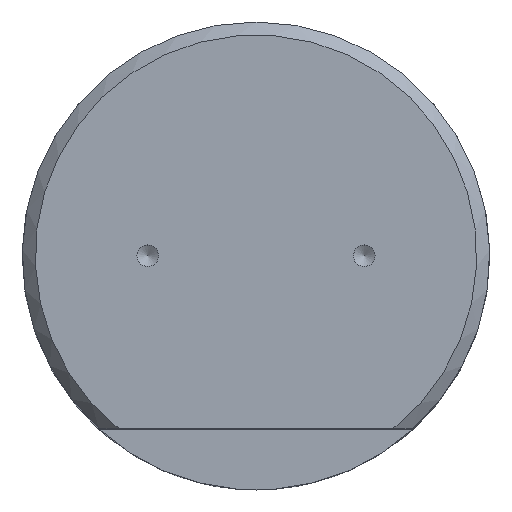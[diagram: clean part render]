
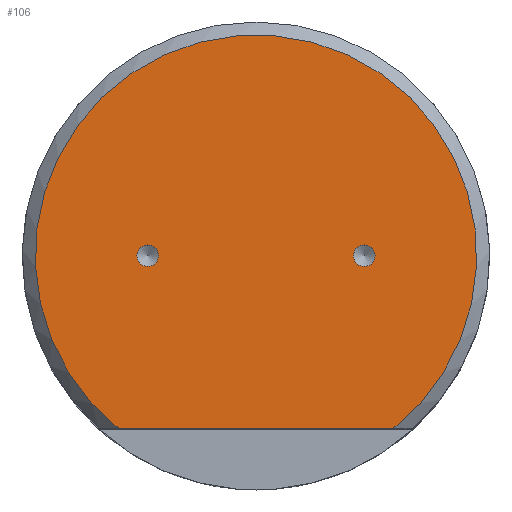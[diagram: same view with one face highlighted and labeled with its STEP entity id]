
A CAD part, top view. The second image highlights one B-rep face of the part: STEP entity #106.
In plain terms, the highlighted planar face has unit normal (0, 0, 1).
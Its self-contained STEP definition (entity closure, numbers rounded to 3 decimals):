
#90=LINE('',#847,#94);
#94=VECTOR('',#681,1.);
#106=ADVANCED_FACE('',(#166,#167,#168),#140,.T.);
#140=PLANE('',#566);
#166=FACE_BOUND('',#251,.T.);
#167=FACE_BOUND('',#252,.T.);
#168=FACE_BOUND('',#253,.T.);
#251=EDGE_LOOP('',(#335));
#252=EDGE_LOOP('',(#336));
#253=EDGE_LOOP('',(#337,#338));
#335=ORIENTED_EDGE('',*,*,#473,.T.);
#336=ORIENTED_EDGE('',*,*,#474,.T.);
#337=ORIENTED_EDGE('',*,*,#475,.F.);
#338=ORIENTED_EDGE('',*,*,#458,.T.);
#405=VERTEX_POINT('',#802);
#406=VERTEX_POINT('',#804);
#420=VERTEX_POINT('',#844);
#421=VERTEX_POINT('',#846);
#458=EDGE_CURVE('',#406,#405,#501,.T.);
#473=EDGE_CURVE('',#420,#420,#513,.T.);
#474=EDGE_CURVE('',#421,#421,#514,.T.);
#475=EDGE_CURVE('',#406,#405,#90,.T.);
#501=CIRCLE('',#542,51.);
#513=CIRCLE('',#564,2.5);
#514=CIRCLE('',#565,2.5);
#542=AXIS2_PLACEMENT_3D('',#803,#633,#634);
#564=AXIS2_PLACEMENT_3D('',#843,#677,#678);
#565=AXIS2_PLACEMENT_3D('',#845,#679,#680);
#566=AXIS2_PLACEMENT_3D('',#848,#682,#683);
#633=DIRECTION('',(0.,0.,1.));
#634=DIRECTION('',(0.,-1.,0.));
#677=DIRECTION('',(0.,0.,-1.));
#678=DIRECTION('',(0.,1.,0.));
#679=DIRECTION('',(0.,0.,-1.));
#680=DIRECTION('',(0.,1.,0.));
#681=DIRECTION('',(-1.,0.,0.));
#682=DIRECTION('',(0.,0.,1.));
#683=DIRECTION('',(0.,-1.,0.));
#802=CARTESIAN_POINT('',(-31.639,-40.,120.));
#803=CARTESIAN_POINT('',(0.,0.,120.));
#804=CARTESIAN_POINT('',(31.639,-40.,120.));
#843=CARTESIAN_POINT('',(25.,0.,120.));
#844=CARTESIAN_POINT('',(25.,2.5,120.));
#845=CARTESIAN_POINT('',(-25.,0.,120.));
#846=CARTESIAN_POINT('',(-25.,2.5,120.));
#847=CARTESIAN_POINT('',(100.,-40.,120.));
#848=CARTESIAN_POINT('',(0.,54.,120.));
